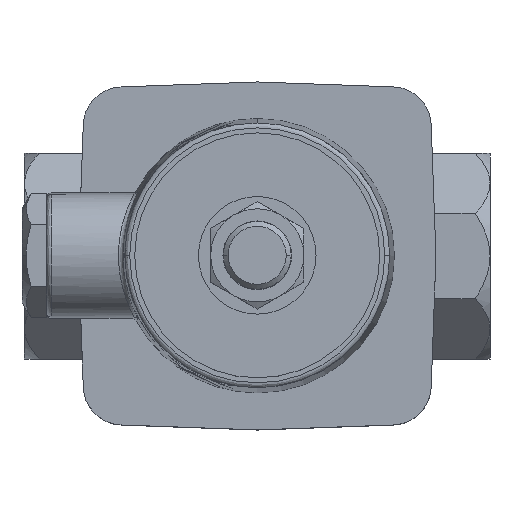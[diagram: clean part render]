
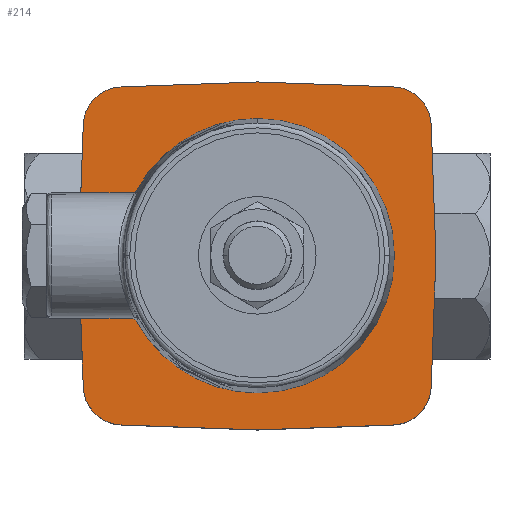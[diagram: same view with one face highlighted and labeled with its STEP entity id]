
A CAD part, top view. The second image highlights one B-rep face of the part: STEP entity #214.
In plain terms, the highlighted planar face has unit normal (0, 0, 1).
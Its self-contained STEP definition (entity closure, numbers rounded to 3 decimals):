
#214=ADVANCED_FACE('',(#783),#782,.T.);
#782=PLANE('',#3840);
#783=FACE_OUTER_BOUND('',#3841,.T.);
#3837=CARTESIAN_POINT('',(-44.369,-50.415,32.5));
#3838=DIRECTION('',(0.,0.,1.));
#3839=DIRECTION('',(1.,0.,0.));
#3840=AXIS2_PLACEMENT_3D('',#3837,#3838,#3839);
#3841=EDGE_LOOP('',(#6700,#6701,#6702,#6703,#6704,#6705,#6706,#6707,#6708,#6709,#6710,#6711,#6712,#6713,#6714));
#6700=ORIENTED_EDGE('',*,*,#8065,.T.);
#6701=ORIENTED_EDGE('',*,*,#8133,.F.);
#6702=ORIENTED_EDGE('',*,*,#8136,.T.);
#6703=ORIENTED_EDGE('',*,*,#8138,.F.);
#6704=ORIENTED_EDGE('',*,*,#8140,.F.);
#6705=ORIENTED_EDGE('',*,*,#8142,.T.);
#6706=ORIENTED_EDGE('',*,*,#8144,.F.);
#6707=ORIENTED_EDGE('',*,*,#8146,.F.);
#6708=ORIENTED_EDGE('',*,*,#8148,.T.);
#6709=ORIENTED_EDGE('',*,*,#8150,.F.);
#6710=ORIENTED_EDGE('',*,*,#8152,.F.);
#6711=ORIENTED_EDGE('',*,*,#8154,.T.);
#6712=ORIENTED_EDGE('',*,*,#8157,.F.);
#6713=ORIENTED_EDGE('',*,*,#8158,.T.);
#6714=ORIENTED_EDGE('',*,*,#8159,.T.);
#8065=EDGE_CURVE('',#8919,#8912,#8920,.T.);
#8133=EDGE_CURVE('',#9380,#8912,#9387,.T.);
#8136=EDGE_CURVE('',#9380,#9399,#9406,.T.);
#8138=EDGE_CURVE('',#9412,#9399,#9419,.T.);
#8140=EDGE_CURVE('',#9425,#9412,#9432,.T.);
#8142=EDGE_CURVE('',#9425,#9438,#9445,.T.);
#8144=EDGE_CURVE('',#9451,#9438,#9458,.T.);
#8146=EDGE_CURVE('',#9464,#9451,#9471,.T.);
#8148=EDGE_CURVE('',#9464,#9477,#9484,.T.);
#8150=EDGE_CURVE('',#9490,#9477,#9497,.T.);
#8152=EDGE_CURVE('',#9503,#9490,#9510,.T.);
#8154=EDGE_CURVE('',#9503,#9516,#9523,.T.);
#8157=EDGE_CURVE('',#9536,#9516,#9543,.T.);
#8158=EDGE_CURVE('',#9536,#9549,#9550,.T.);
#8159=EDGE_CURVE('',#9549,#8919,#9556,.T.);
#8912=VERTEX_POINT('',#13879);
#8919=VERTEX_POINT('',#13883);
#8920=LINE('',#13884,#13885);
#9380=VERTEX_POINT('',#14322);
#9387=LINE('',#14326,#14327);
#9399=VERTEX_POINT('',#14332);
#9406=CIRCLE('',#14339,8.);
#9412=VERTEX_POINT('',#14340);
#9419=LINE('',#14344,#14345);
#9425=VERTEX_POINT('',#14347);
#9432=LINE('',#14351,#14352);
#9438=VERTEX_POINT('',#14354);
#9445=CIRCLE('',#14361,8.);
#9451=VERTEX_POINT('',#14362);
#9458=LINE('',#14366,#14367);
#9464=VERTEX_POINT('',#14369);
#9471=LINE('',#14373,#14374);
#9477=VERTEX_POINT('',#14376);
#9484=CIRCLE('',#14383,8.);
#9490=VERTEX_POINT('',#14384);
#9497=LINE('',#14388,#14389);
#9503=VERTEX_POINT('',#14391);
#9510=LINE('',#14395,#14396);
#9516=VERTEX_POINT('',#14398);
#9523=CIRCLE('',#14405,8.);
#9536=VERTEX_POINT('',#14410);
#9543=LINE('',#14414,#14415);
#9549=VERTEX_POINT('',#14417);
#9550=LINE('',#14418,#14419);
#9556=CIRCLE('',#14424,25.5);
#13879=CARTESIAN_POINT('',(-36.247,-6.,32.5));
#13883=CARTESIAN_POINT('',(-24.784,-6.,32.5));
#13884=CARTESIAN_POINT('',(-24.784,-6.,32.5));
#13885=VECTOR('',#13886,11.463);
#13886=DIRECTION('',(-1.,0.,0.));
#14322=CARTESIAN_POINT('',(-35.495,-26.789,32.5));
#14326=CARTESIAN_POINT('',(-35.495,-26.789,32.5));
#14327=VECTOR('',#14328,20.803);
#14328=DIRECTION('',(-0.036,0.999,0.));
#14332=CARTESIAN_POINT('',(-27.789,-34.495,32.5));
#14336=CARTESIAN_POINT('',(-27.5,-26.5,32.5));
#14337=DIRECTION('',(0.,0.,1.));
#14338=DIRECTION('',(-1.,0.,0.));
#14339=AXIS2_PLACEMENT_3D('',#14336,#14337,#14338);
#14340=CARTESIAN_POINT('',(0.,-35.5,32.5));
#14344=CARTESIAN_POINT('',(0.,-35.5,32.5));
#14345=VECTOR('',#14346,27.807);
#14346=DIRECTION('',(-0.999,0.036,0.));
#14347=CARTESIAN_POINT('',(27.789,-34.495,32.5));
#14351=CARTESIAN_POINT('',(27.789,-34.495,32.5));
#14352=VECTOR('',#14353,27.807);
#14353=DIRECTION('',(-0.999,-0.036,0.));
#14354=CARTESIAN_POINT('',(35.495,-26.789,32.5));
#14358=CARTESIAN_POINT('',(27.5,-26.5,32.5));
#14359=DIRECTION('',(0.,0.,1.));
#14360=DIRECTION('',(-1.,0.,0.));
#14361=AXIS2_PLACEMENT_3D('',#14358,#14359,#14360);
#14362=CARTESIAN_POINT('',(36.464,0.,32.5));
#14366=CARTESIAN_POINT('',(36.464,0.,32.5));
#14367=VECTOR('',#14368,26.807);
#14368=DIRECTION('',(-0.036,-0.999,0.));
#14369=CARTESIAN_POINT('',(35.495,26.789,32.5));
#14373=CARTESIAN_POINT('',(35.495,26.789,32.5));
#14374=VECTOR('',#14375,26.807);
#14375=DIRECTION('',(0.036,-0.999,0.));
#14376=CARTESIAN_POINT('',(27.789,34.495,32.5));
#14380=CARTESIAN_POINT('',(27.5,26.5,32.5));
#14381=DIRECTION('',(0.,0.,1.));
#14382=DIRECTION('',(-1.,0.,0.));
#14383=AXIS2_PLACEMENT_3D('',#14380,#14381,#14382);
#14384=CARTESIAN_POINT('',(0.,35.5,32.5));
#14388=CARTESIAN_POINT('',(0.,35.5,32.5));
#14389=VECTOR('',#14390,27.807);
#14390=DIRECTION('',(0.999,-0.036,0.));
#14391=CARTESIAN_POINT('',(-27.789,34.495,32.5));
#14395=CARTESIAN_POINT('',(-27.789,34.495,32.5));
#14396=VECTOR('',#14397,27.807);
#14397=DIRECTION('',(0.999,0.036,0.));
#14398=CARTESIAN_POINT('',(-35.495,26.789,32.5));
#14402=CARTESIAN_POINT('',(-27.5,26.5,32.5));
#14403=DIRECTION('',(0.,0.,1.));
#14404=DIRECTION('',(-1.,0.,0.));
#14405=AXIS2_PLACEMENT_3D('',#14402,#14403,#14404);
#14410=CARTESIAN_POINT('',(-36.247,6.,32.5));
#14414=CARTESIAN_POINT('',(-36.247,6.,32.5));
#14415=VECTOR('',#14416,20.803);
#14416=DIRECTION('',(0.036,0.999,0.));
#14417=CARTESIAN_POINT('',(-24.784,6.,32.5));
#14418=CARTESIAN_POINT('',(-36.247,6.,32.5));
#14419=VECTOR('',#14420,11.463);
#14420=DIRECTION('',(1.,0.,0.));
#14421=CARTESIAN_POINT('',(0.,0.,32.5));
#14422=DIRECTION('',(0.,0.,-1.));
#14423=DIRECTION('',(-1.,0.,0.));
#14424=AXIS2_PLACEMENT_3D('',#14421,#14422,#14423);
